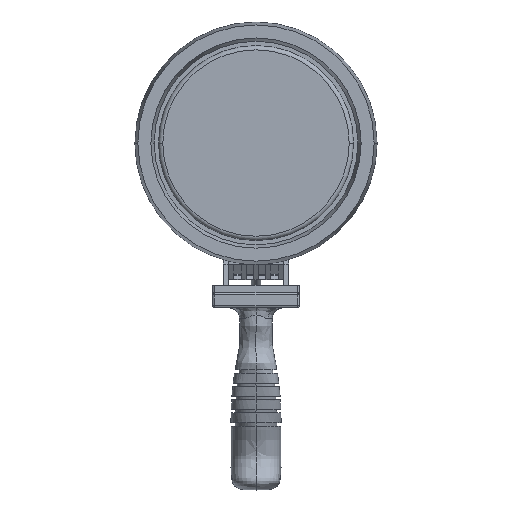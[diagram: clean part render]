
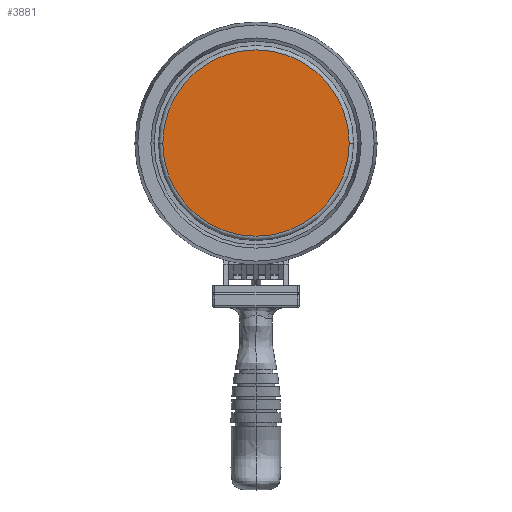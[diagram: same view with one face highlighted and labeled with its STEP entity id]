
A CAD part, top view. The second image highlights one B-rep face of the part: STEP entity #3881.
In plain terms, the highlighted planar face has unit normal (0, 0, 1).
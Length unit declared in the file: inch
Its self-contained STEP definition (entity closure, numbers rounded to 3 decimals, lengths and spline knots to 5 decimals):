
#183 = CIRCLE ( 'NONE', #15839, 2.15 ) ;
#208 = DIRECTION ( 'NONE',  ( -1., 0., 0. ) ) ;
#3881 = ADVANCED_FACE ( 'NONE', ( #13856 ), #15659, .F. ) ;
#7744 = EDGE_CURVE ( 'NONE', #41307, #44300, #183, .T. ) ;
#7834 = CARTESIAN_POINT ( 'NONE',  ( 0., 2.25, 0.671 ) ) ;
#8688 = AXIS2_PLACEMENT_3D ( 'NONE', #44550, #21506, #48401 ) ;
#13556 = AXIS2_PLACEMENT_3D ( 'NONE', #7834, #23395, #208 ) ;
#13711 = ORIENTED_EDGE ( 'NONE', *, *, #7744, .T. ) ;
#13856 = FACE_OUTER_BOUND ( 'NONE', #21385, .T. ) ;
#13859 = ORIENTED_EDGE ( 'NONE', *, *, #31245, .T. ) ;
#15476 = DIRECTION ( 'NONE',  ( 0., 0., 1. ) ) ;
#15659 = PLANE ( 'NONE',  #13556 ) ;
#15839 = AXIS2_PLACEMENT_3D ( 'NONE', #38509, #15476, #42399 ) ;
#21385 = EDGE_LOOP ( 'NONE', ( #13711, #13859 ) ) ;
#21506 = DIRECTION ( 'NONE',  ( 0., 0., 1. ) ) ;
#23395 = DIRECTION ( 'NONE',  ( 0., 0., -1. ) ) ;
#26216 = CARTESIAN_POINT ( 'NONE',  ( 2.15, 0., 0.671 ) ) ;
#31245 = EDGE_CURVE ( 'NONE', #44300, #41307, #47038, .T. ) ;
#38509 = CARTESIAN_POINT ( 'NONE',  ( 0., 0., 0.671 ) ) ;
#41307 = VERTEX_POINT ( 'NONE', #44078 ) ;
#42399 = DIRECTION ( 'NONE',  ( -1., 0., 0. ) ) ;
#44078 = CARTESIAN_POINT ( 'NONE',  ( -2.15, 0., 0.671 ) ) ;
#44300 = VERTEX_POINT ( 'NONE', #26216 ) ;
#44550 = CARTESIAN_POINT ( 'NONE',  ( 0., 0., 0.671 ) ) ;
#47038 = CIRCLE ( 'NONE', #8688, 2.15 ) ;
#48401 = DIRECTION ( 'NONE',  ( -1., 0., 0. ) ) ;
